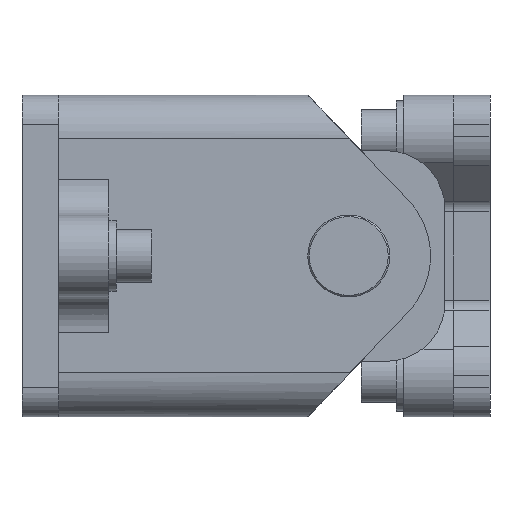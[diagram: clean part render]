
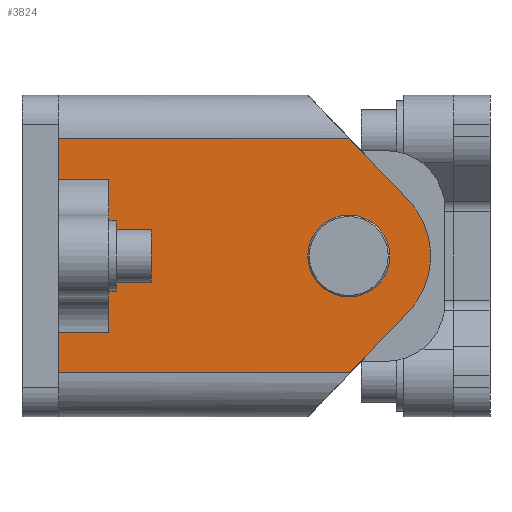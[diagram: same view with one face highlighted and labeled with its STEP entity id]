
A CAD part, left-side view. The second image highlights one B-rep face of the part: STEP entity #3824.
In plain terms, the highlighted planar face has unit normal (-1, 0, 0).
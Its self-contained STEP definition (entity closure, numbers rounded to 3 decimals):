
#200=CIRCLE('',#4637,14.);
#201=CIRCLE('',#4638,28.);
#672=ORIENTED_EDGE('',*,*,#1603,.T.);
#673=ORIENTED_EDGE('',*,*,#1604,.T.);
#674=ORIENTED_EDGE('',*,*,#1605,.F.);
#675=ORIENTED_EDGE('',*,*,#1606,.T.);
#676=ORIENTED_EDGE('',*,*,#1602,.T.);
#677=ORIENTED_EDGE('',*,*,#1607,.T.);
#678=ORIENTED_EDGE('',*,*,#1608,.F.);
#679=ORIENTED_EDGE('',*,*,#1609,.T.);
#680=ORIENTED_EDGE('',*,*,#1610,.T.);
#681=ORIENTED_EDGE('',*,*,#1611,.T.);
#682=ORIENTED_EDGE('',*,*,#1586,.F.);
#1586=EDGE_CURVE('',#2078,#2080,#2422,.T.);
#1602=EDGE_CURVE('',#2092,#2093,#2435,.T.);
#1603=EDGE_CURVE('',#2094,#2094,#200,.T.);
#1604=EDGE_CURVE('',#2078,#2095,#2436,.T.);
#1605=EDGE_CURVE('',#2096,#2095,#201,.T.);
#1606=EDGE_CURVE('',#2096,#2092,#2437,.T.);
#1607=EDGE_CURVE('',#2093,#2097,#2438,.T.);
#1608=EDGE_CURVE('',#2098,#2097,#2439,.T.);
#1609=EDGE_CURVE('',#2098,#2099,#2440,.T.);
#1610=EDGE_CURVE('',#2099,#2100,#2441,.T.);
#1611=EDGE_CURVE('',#2100,#2080,#2442,.T.);
#2078=VERTEX_POINT('',#6479);
#2080=VERTEX_POINT('',#6482);
#2092=VERTEX_POINT('',#6511);
#2093=VERTEX_POINT('',#6513);
#2094=VERTEX_POINT('',#6517);
#2095=VERTEX_POINT('',#6519);
#2096=VERTEX_POINT('',#6521);
#2097=VERTEX_POINT('',#6524);
#2098=VERTEX_POINT('',#6526);
#2099=VERTEX_POINT('',#6528);
#2100=VERTEX_POINT('',#6530);
#2422=LINE('',#6481,#2700);
#2435=LINE('',#6514,#2713);
#2436=LINE('',#6518,#2714);
#2437=LINE('',#6522,#2715);
#2438=LINE('',#6523,#2716);
#2439=LINE('',#6525,#2717);
#2440=LINE('',#6527,#2718);
#2441=LINE('',#6529,#2719);
#2442=LINE('',#6531,#2720);
#2700=VECTOR('',#5273,1000.);
#2713=VECTOR('',#5298,1000.);
#2714=VECTOR('',#5303,1000.);
#2715=VECTOR('',#5306,1000.);
#2716=VECTOR('',#5307,1000.);
#2717=VECTOR('',#5308,1000.);
#2718=VECTOR('',#5309,1000.);
#2719=VECTOR('',#5310,1000.);
#2720=VECTOR('',#5311,1000.);
#3022=EDGE_LOOP('',(#672));
#3023=EDGE_LOOP('',(#673,#674,#675,#676,#677,#678,#679,#680,#681,#682));
#3374=FACE_BOUND('',#3022,.T.);
#3375=FACE_BOUND('',#3023,.T.);
#3664=PLANE('',#4636);
#3824=ADVANCED_FACE('',(#3374,#3375),#3664,.F.);
#4636=AXIS2_PLACEMENT_3D('',#6515,#5299,#5300);
#4637=AXIS2_PLACEMENT_3D('',#6516,#5301,#5302);
#4638=AXIS2_PLACEMENT_3D('',#6520,#5304,#5305);
#5273=DIRECTION('',(0.,-1.,0.));
#5298=DIRECTION('',(0.,-1.,0.));
#5299=DIRECTION('',(1.,0.,0.));
#5300=DIRECTION('',(0.,0.,-1.));
#5301=DIRECTION('',(1.,0.,0.));
#5302=DIRECTION('',(0.,0.,-1.));
#5303=DIRECTION('',(0.,0.693,-0.721));
#5304=DIRECTION('',(1.,0.,0.));
#5305=DIRECTION('',(0.,0.,-1.));
#5306=DIRECTION('',(0.,-0.693,-0.721));
#5307=DIRECTION('',(0.,0.,1.));
#5308=DIRECTION('',(0.,-1.,0.));
#5309=DIRECTION('',(0.,0.,1.));
#5310=DIRECTION('',(0.,-1.,0.));
#5311=DIRECTION('',(0.,0.,1.));
#6479=CARTESIAN_POINT('',(-30.,99.606,40.));
#6481=CARTESIAN_POINT('',(-30.,17.2,40.));
#6482=CARTESIAN_POINT('',(-30.,0.,40.));
#6511=CARTESIAN_POINT('',(-30.,99.606,-40.));
#6513=CARTESIAN_POINT('',(-30.,0.,-40.));
#6514=CARTESIAN_POINT('',(-30.,17.2,-40.));
#6515=CARTESIAN_POINT('',(-30.,17.2,-40.));
#6516=CARTESIAN_POINT('',(-30.,99.2,0.));
#6517=CARTESIAN_POINT('',(-30.,99.2,-14.));
#6518=CARTESIAN_POINT('',(-30.,85.2,55.));
#6519=CARTESIAN_POINT('',(-30.,119.395,19.395));
#6520=CARTESIAN_POINT('',(-30.,99.2,0.));
#6521=CARTESIAN_POINT('',(-30.,119.395,-19.395));
#6522=CARTESIAN_POINT('',(-30.,119.395,-19.395));
#6523=CARTESIAN_POINT('',(-30.,0.,-40.));
#6524=CARTESIAN_POINT('',(-30.,0.,-26.));
#6525=CARTESIAN_POINT('',(-30.,17.2,-26.));
#6526=CARTESIAN_POINT('',(-30.,17.2,-26.));
#6527=CARTESIAN_POINT('',(-30.,17.2,-40.));
#6528=CARTESIAN_POINT('',(-30.,17.2,26.));
#6529=CARTESIAN_POINT('',(-30.,17.2,26.));
#6530=CARTESIAN_POINT('',(-30.,0.,26.));
#6531=CARTESIAN_POINT('',(-30.,0.,26.));
